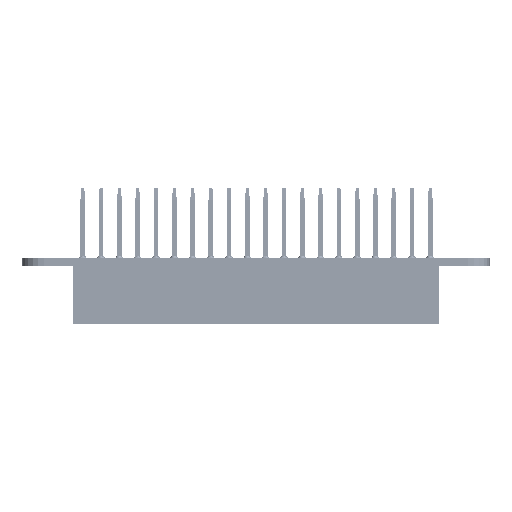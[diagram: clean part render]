
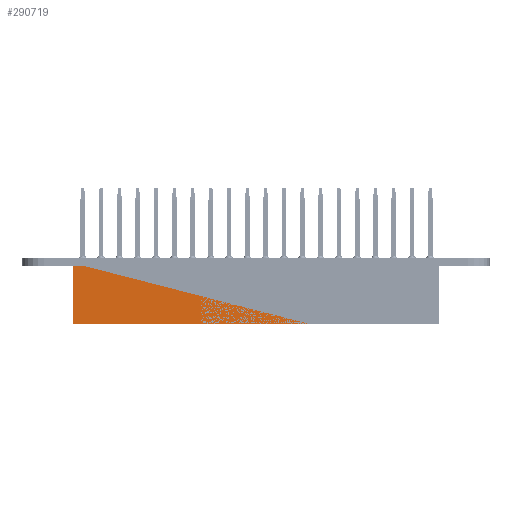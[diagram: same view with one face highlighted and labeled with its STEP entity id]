
A CAD part, front view. The second image highlights one B-rep face of the part: STEP entity #290719.
In plain terms, the highlighted planar face has unit normal (0, -1, 0) as drawn and (0, 0, -1) by its records, which use the part's own axes.
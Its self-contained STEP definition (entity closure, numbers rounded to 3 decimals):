
#24745=FACE_OUTER_BOUND('',#49150,.T.);
#49150=EDGE_LOOP('',(#240215,#240216,#240217));
#83564=LINE('',#472023,#118871);
#83573=LINE('',#472040,#118880);
#83574=LINE('',#472042,#118881);
#118871=VECTOR('',#397154,1.);
#118880=VECTOR('',#397171,1.);
#118881=VECTOR('',#397174,1.);
#134117=VERTEX_POINT('',#472016);
#134119=VERTEX_POINT('',#472022);
#134123=VERTEX_POINT('',#472038);
#169218=EDGE_CURVE('',#134117,#134119,#83564,.T.);
#169227=EDGE_CURVE('',#134123,#134117,#83573,.T.);
#169228=EDGE_CURVE('',#134119,#134123,#83574,.T.);
#240215=ORIENTED_EDGE('',*,*,#169218,.F.);
#240216=ORIENTED_EDGE('',*,*,#169227,.F.);
#240217=ORIENTED_EDGE('',*,*,#169228,.F.);
#267108=PLANE('',#316028);
#290719=ADVANCED_FACE('',(#24745),#267108,.F.);
#316028=AXIS2_PLACEMENT_3D('',#472041,#397172,#397173);
#397154=DIRECTION('',(0.968,0.249,0.));
#397171=DIRECTION('',(0.,-1.,0.));
#397172=DIRECTION('center_axis',(0.,0.,1.));
#397173=DIRECTION('ref_axis',(0.,1.,0.));
#397174=DIRECTION('',(-1.,0.,0.));
#472016=CARTESIAN_POINT('',(-34.335,10.648,-1.253));
#472022=CARTESIAN_POINT('',(-1.315,19.148,-1.253));
#472023=CARTESIAN_POINT('',(-34.335,10.648,-1.253));
#472038=CARTESIAN_POINT('',(-34.335,19.148,-1.253));
#472040=CARTESIAN_POINT('',(-34.335,19.148,-1.253));
#472041=CARTESIAN_POINT('Origin',(-1.315,19.148,-1.253));
#472042=CARTESIAN_POINT('',(-1.315,19.148,-1.253));
